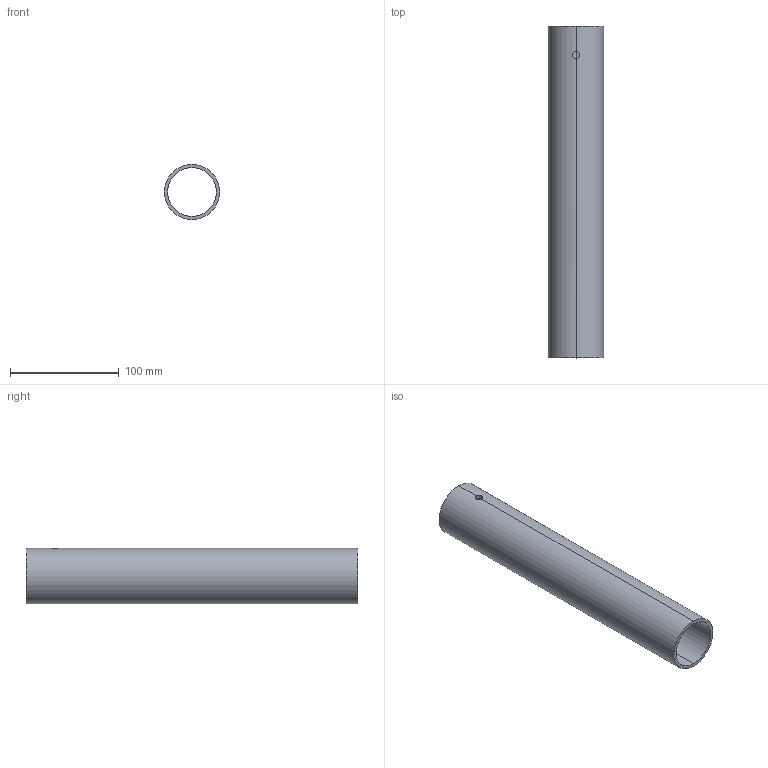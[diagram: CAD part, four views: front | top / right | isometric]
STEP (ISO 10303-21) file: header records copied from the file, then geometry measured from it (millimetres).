
FILE_DESCRIPTION (( 'STEP AP203' ), '1' );
FILE_NAME ('10-0501-00 REV 1, POLE, 2in OD x 1 FT.STEP', '2018-01-25T22:35:50', ( '' ), ( '' ), 'SwSTEP 2.0', 'SolidWorks 2012', '' );
FILE_SCHEMA (( 'CONFIG_CONTROL_DESIGN' ));
Length unit declared in the file: inch
Products named in the file (1): 10-0501-00 REV 1, POLE, 2in OD x 1 FT
Bounding box: 50.8 x 304.8 x 50.8 mm (x, y, z)
Volume: 139256.1 mm3; surface area: 92356.4 mm2
Topology: 1 solids, 1 shells, 8 faces, 24 edges, 16 vertices
Faces by surface type: cylinder 6, plane 2
Entity records: 483 total; most frequent: CARTESIAN_POINT 185, ORIENTED_EDGE 48, DIRECTION 42, EDGE_CURVE 24, AXIS2_PLACEMENT_3D 17, VERTEX_POINT 16, EDGE_LOOP 10, ADVANCED_FACE 8
